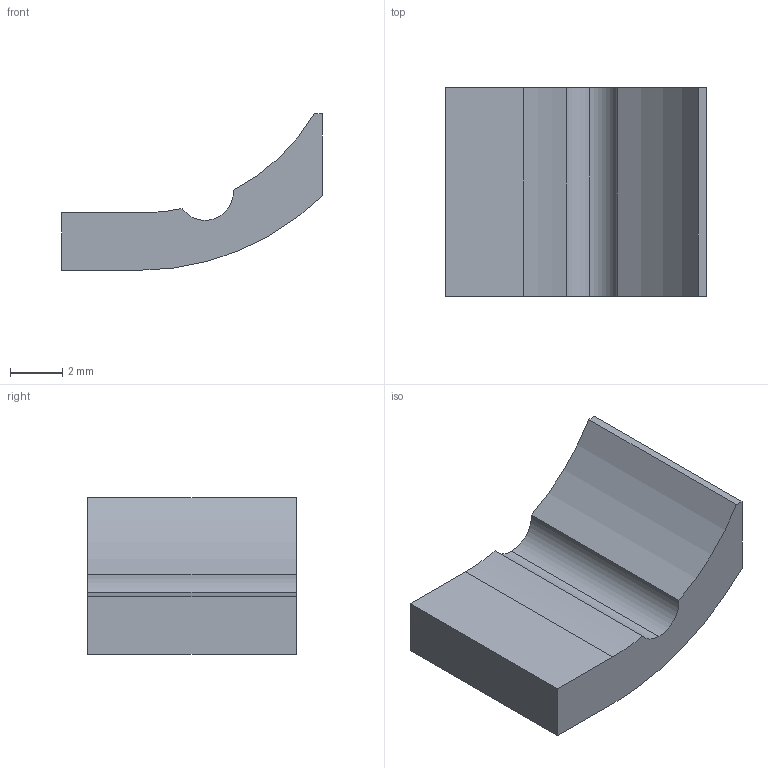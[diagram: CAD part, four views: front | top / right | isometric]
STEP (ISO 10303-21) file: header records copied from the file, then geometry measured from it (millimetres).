
FILE_DESCRIPTION(('Open CASCADE Model'),'2;1');
FILE_NAME('QF05_COAX_CURVED_LANDS_AND_CABLE_SADDLE_TEST_BASE', '2026-09-15T14:35:49',('Author'),('Open CASCADE'), 'Open CASCADE STEP processor 7.9','build123d','Unknown');
FILE_SCHEMA(('AUTOMOTIVE_DESIGN { 1 0 10303 214 1 1 1 1 }'));
Length unit declared in the file: millimetre
Products named in the file (1): QF05_COAX_CURVED_LANDS_AND_CABLE_SADDLE_TEST_BASE
Bounding box: 10 x 8 x 6 mm (x, y, z)
Volume: 185.9 mm3; surface area: 271.8 mm2
Topology: 1 solids, 1 shells, 12 faces, 30 edges, 20 vertices
Faces by surface type: plane 7, cylinder 5
Entity records: 761 total; most frequent: CARTESIAN_POINT 180, DIRECTION 99, ORIENTED_EDGE 60, PCURVE 60, DEFINITIONAL_REPRESENTATION 60, LINE 49, VECTOR 49, EDGE_CURVE 30
